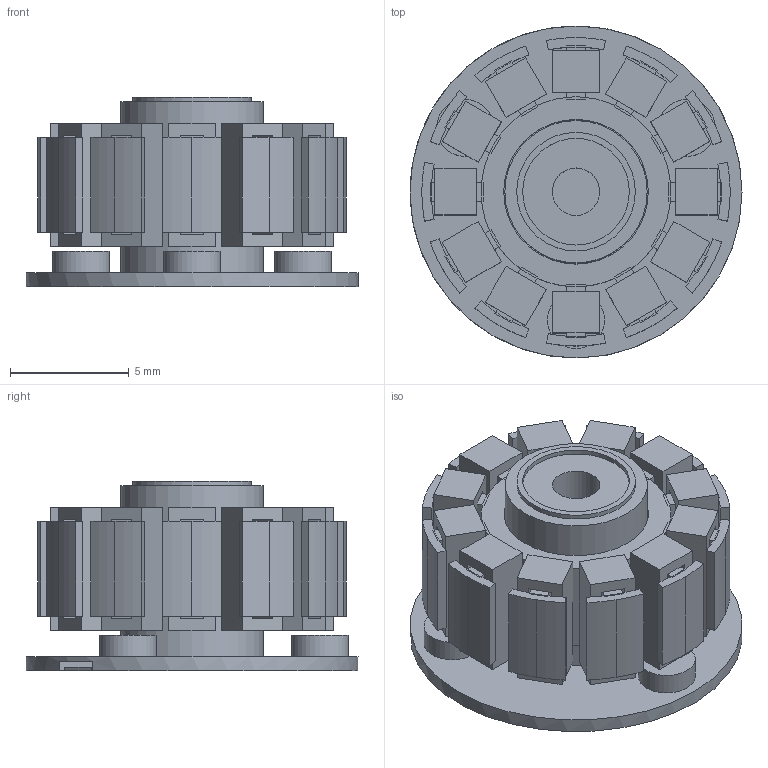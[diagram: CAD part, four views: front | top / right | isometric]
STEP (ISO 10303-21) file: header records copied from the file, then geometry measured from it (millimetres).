
FILE_DESCRIPTION(('Open CASCADE Model'),'2;1');
FILE_NAME('Open CASCADE Shape Model','2026-10-24T17:46:06',('Author'),( 'Open CASCADE'),'Open CASCADE STEP processor 8.0','Open CASCADE 8.0' ,'Unknown');
FILE_SCHEMA(('AUTOMOTIVE_DESIGN { 1 0 10303 214 1 1 1 1 }'));
Length unit declared in the file: millimetre
Products named in the file (22): Open CASCADE STEP translator 8.0 3; Open CASCADE STEP translator 8.0 3.1; Open CASCADE STEP translator 8.0 3.2; Open CASCADE STEP translator 8.0 3.3; Open CASCADE STEP translator 8.0 3.4; Open CASCADE STEP translator 8.0 3.5; Open CASCADE STEP translator 8.0 3.6; Open CASCADE STEP translator 8.0 3.7; Open CASCADE STEP translator 8.0 3.8; Open CASCADE STEP translator 8.0 3.9; Open CASCADE STEP translator 8.0 3.10; Open CASCADE STEP translator 8.0 3.11; Open CASCADE STEP translator 8.0 3.12; Open CASCADE STEP translator 8.0 3.13; Open CASCADE STEP translator 8.0 3.14; Open CASCADE STEP translator 8.0 3.15; Open CASCADE STEP translator 8.0 3.16; Open CASCADE STEP translator 8.0 3.17; Open CASCADE STEP translator 8.0 3.18; Open CASCADE STEP translator 8.0 3.19; Open CASCADE STEP translator 8.0 3.20; Open CASCADE STEP translator 8.0 3.21
Assembly tree (21 placements, depth 2):
  Open CASCADE STEP translator 8.0 3
    Open CASCADE STEP translator 8.0 3.1
    Open CASCADE STEP translator 8.0 3.2
    Open CASCADE STEP translator 8.0 3.3
    Open CASCADE STEP translator 8.0 3.4
    Open CASCADE STEP translator 8.0 3.5
    Open CASCADE STEP translator 8.0 3.6
    Open CASCADE STEP translator 8.0 3.7
    Open CASCADE STEP translator 8.0 3.8
    Open CASCADE STEP translator 8.0 3.9
    Open CASCADE STEP translator 8.0 3.10
    Open CASCADE STEP translator 8.0 3.11
    Open CASCADE STEP translator 8.0 3.12
    Open CASCADE STEP translator 8.0 3.13
    Open CASCADE STEP translator 8.0 3.14
    Open CASCADE STEP translator 8.0 3.15
    Open CASCADE STEP translator 8.0 3.16
    Open CASCADE STEP translator 8.0 3.17
    Open CASCADE STEP translator 8.0 3.18
    Open CASCADE STEP translator 8.0 3.19
    Open CASCADE STEP translator 8.0 3.20
    Open CASCADE STEP translator 8.0 3.21
Bounding box: 14 x 14 x 8 mm (x, y, z)
Volume: 583.8 mm3; surface area: 2236 mm2
Topology: 21 solids, 21 shells, 396 faces, 964 edges, 617 vertices
Faces by surface type: plane 311, cylinder 85
Full cylindrical faces by diameter (mm): 0.9 x1, 1.1 x3, 2 x2, 2.4 x3, 4.5 x3, 5 x7, 5.5 x1, 6 x1, 6.1 x1, 14 x1
Entity records: 24396 total; most frequent: CARTESIAN_POINT 3992, DIRECTION 3916, LINE 2246, VECTOR 2246, ORIENTED_EDGE 1928, PCURVE 1928, DEFINITIONAL_REPRESENTATION 1928, EDGE_CURVE 964
